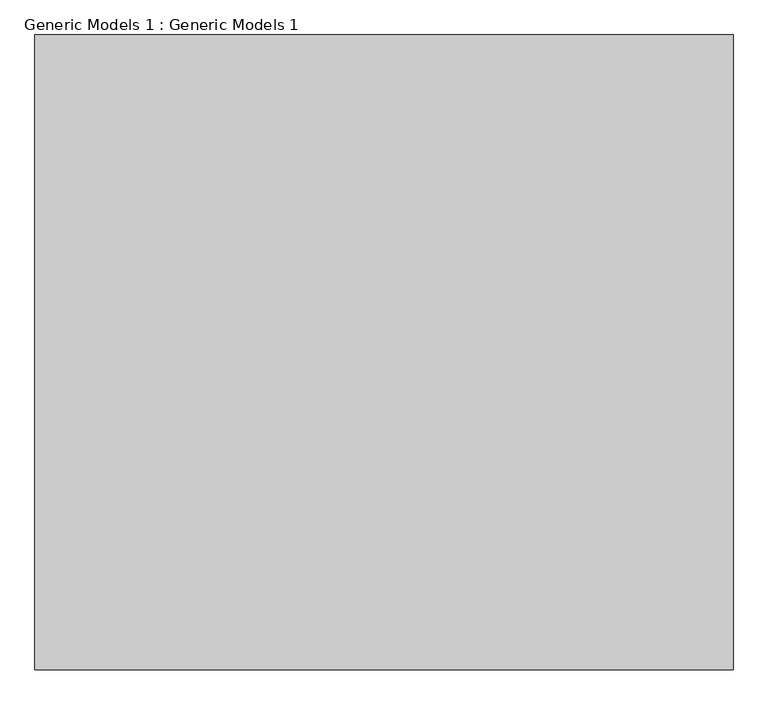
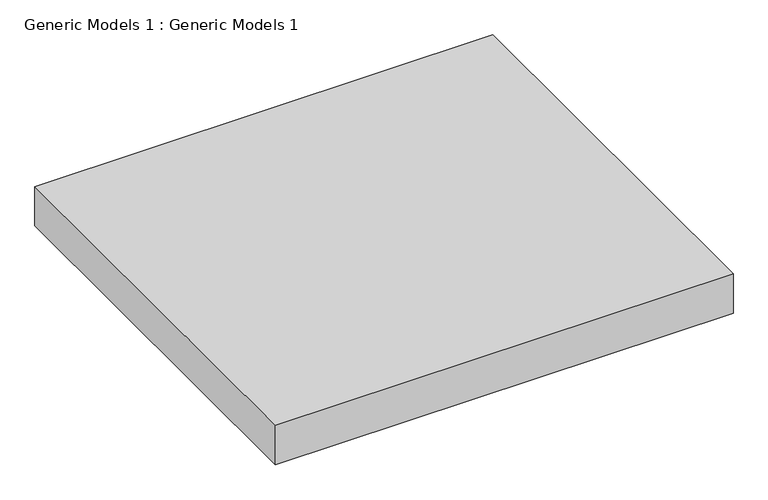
"""IFC4 building model written with IfcOpenShell, lengths in millimetres: proxy geometry, Generic Models 1 : Generic Models 1."""

from ifc_helpers import new_model, si_unit, origin, origin_with_axes, place, context, project, spatial, polyline, outline, extrude, source, transform, mapped, element, save


def generic_models_1_generic_models_1_b15fef0a(model_context):
    return source(origin(), model_context, "Body", "SweptSolid", [
        extrude(outline(polyline([(8715.6840593, -9214.0002483), (8715.6840593, -8214.0002483), (9815.6840593, -8214.0002483), (9815.6840593, -9214.0002483), (8715.6840593, -9214.0002483)])), origin_with_axes(), (0.0, 0.0, 1.0), 100.0),
    ])


if __name__ == "__main__":
    model = new_model("IFC4")
    model_context = context("Model", 3, world=origin())
    ifc_project = project(units=[si_unit("LENGTHUNIT", "METRE", prefix="MILLI")], contexts=[model_context])
    site = spatial("IfcSite", under=ifc_project)
    building = spatial("IfcBuilding", under=site)
    placement = place(None, origin())
    generic_models_1_generic_models_1_shape = generic_models_1_generic_models_1_b15fef0a(model_context)
    element("IfcBuildingElementProxy", 1, Name="Generic Models 1 : Generic Models 1", ObjectType="Generic Models 1 : Generic Models 1", at=placement, inside=building, context=model_context, shape_type="MappedRepresentation", body=[
        mapped(generic_models_1_generic_models_1_shape, transform((0.0, 0.0, 0.0), x_axis=(1.0, 0.0, 0.0), y_axis=(0.0, 1.0, 0.0), z_axis=(0.0, 0.0, 1.0))),
    ])
    save(model, "model.ifc")
